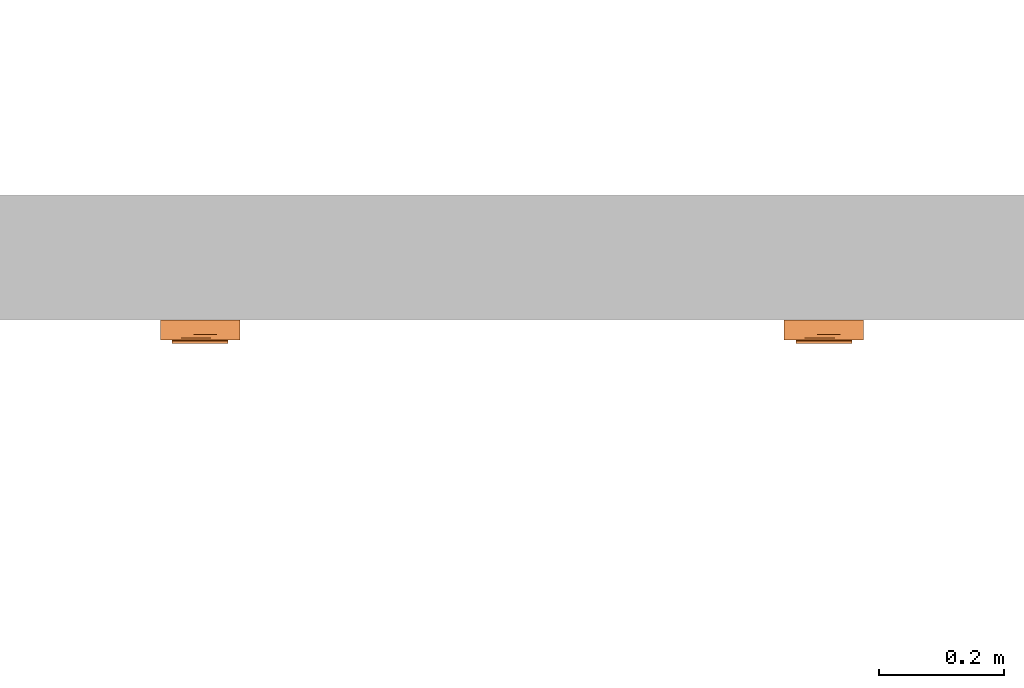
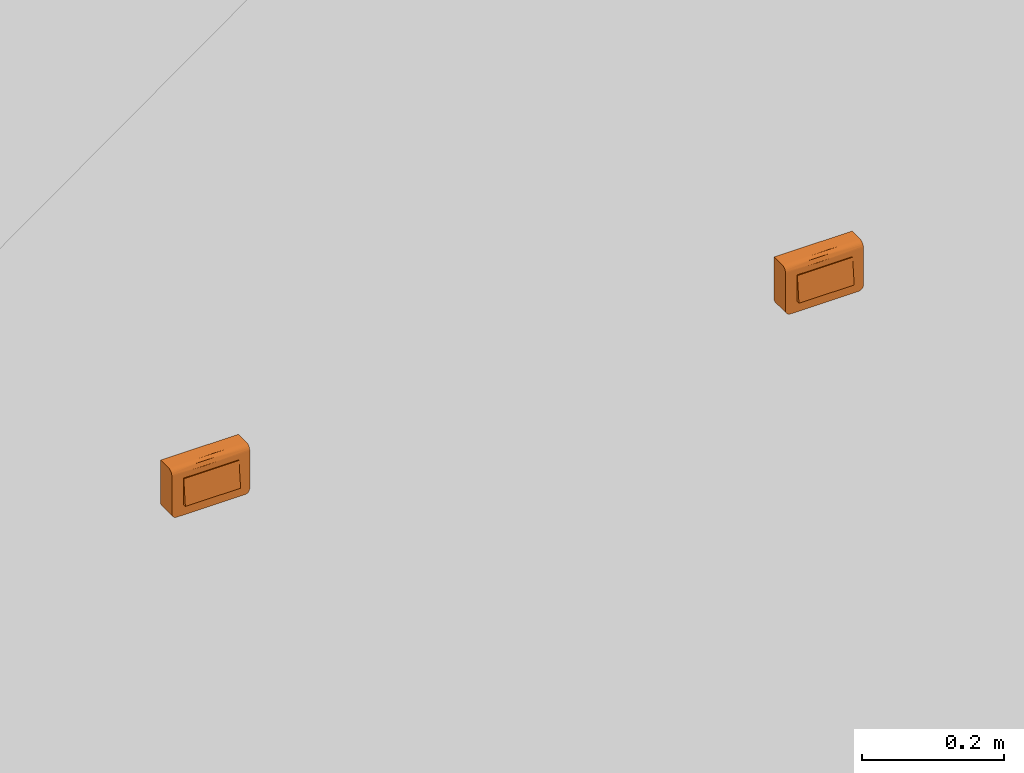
# One storey, part 140 of 197: 2 proxies.
"""IFC2X3 building model written with IfcOpenShell, lengths in metres."""

from ifc_helpers import new_model, entity, si_unit, converted_unit, direction, frame, origin, place, context, subcontext, project, spatial, faceted_brep, source, transform, mapped, material, material_list, type_object, type_shapes, element, save


model = new_model("IFC2X3")

# Units and contexts
model_context = context("Model", 3, precision=1e-05, world=origin(), true_north=direction((6.123031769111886e-17, 1.0)))
body_context = subcontext(model_context, "Body", "Model", "MODEL_VIEW")
ifc_project = project(units=[si_unit("LENGTHUNIT", "METRE"), converted_unit("PLANEANGLEUNIT", "DEGREE", entity("IfcPlaneAngleMeasure", 0.017453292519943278), si_unit("PLANEANGLEUNIT", "RADIAN"), dimensions=[0, 0, 0, 0, 0, 0, 0]), si_unit("AREAUNIT", "SQUARE_METRE")], contexts=[model_context])

# Site, building, storey
site_placement = place(None, origin())
site = spatial("IfcSite", under=ifc_project, at=site_placement, Name="Default", CompositionType="ELEMENT")
building_placement = place(site_placement, origin())
building = spatial("IfcBuilding", under=site, at=building_placement, CompositionType="ELEMENT")
storey_placement = place(building_placement, origin())
storey = spatial("IfcBuildingStorey", under=building, at=storey_placement, Name="Niveau 0", CompositionType="ELEMENT", Elevation=0.0)

# Proxies
ifc_material_1 = material(Name="BETCE-DOIGT-BLANC")
ifc_material_2 = material(Name="BETCE-CADRE-BLANC")
ifc_material_3 = material(Name="BETCE-ENJOLIVEUR-BLANC")
ifc_material_list = material_list([ifc_material_1, ifc_material_2, ifc_material_3])
building_element_proxy_type_1 = type_object("IfcBuildingElementProxyType", Name="Tableau commande 1x4 modules saillie:2 SA + 2 BP", PredefinedType="NOTDEFINED", material=ifc_material_list)
shared_shape_1 = source(origin(), body_context, "Body", "Brep", [
    faceted_brep([(-0.04499999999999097, -0.03350000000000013, 0.022499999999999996), (-0.04499999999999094, -0.038000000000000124, -0.022500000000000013), (-0.022500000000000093, -0.03799999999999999, -0.02249999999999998), (-0.02250000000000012, -0.0335, 0.022499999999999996), (-0.04499999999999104, -0.02299999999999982, -0.022500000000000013), (-0.04499999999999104, -0.02299999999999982, 0.022499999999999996), (-0.022500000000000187, -0.022999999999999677, 0.022499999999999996), (-0.022500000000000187, -0.022999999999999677, -0.022500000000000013)], [[[0, 1, 2, 3]], [[4, 5, 6, 7]], [[5, 4, 1, 0]], [[6, 5, 0, 3]], [[7, 6, 3, 2]], [[4, 7, 2, 1]]]),
    faceted_brep([(0.02250000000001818, -0.03349999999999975, 0.022499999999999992), (0.02250000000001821, -0.03799999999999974, -0.022500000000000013), (0.04500000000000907, -0.03799999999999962, -0.02250000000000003), (0.04500000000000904, -0.03349999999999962, 0.022499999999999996), (0.022500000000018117, -0.02299999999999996, -0.022500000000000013), (0.022500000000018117, -0.02299999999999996, 0.022499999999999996), (0.04500000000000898, -0.022999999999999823, 0.022499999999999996), (0.04500000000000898, -0.022999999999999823, -0.022500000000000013)], [[[0, 1, 2, 3]], [[4, 5, 6, 7]], [[5, 4, 1, 0]], [[6, 5, 0, 3]], [[7, 6, 3, 2]], [[4, 7, 2, 1]]]),
    faceted_brep([(0.0, -0.03349999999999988, 0.022499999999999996), (0.0, -0.03799999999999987, -0.022500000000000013), (0.022499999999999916, -0.03799999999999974, -0.022500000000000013), (0.022499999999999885, -0.03349999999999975, 0.022499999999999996), (0.0, -0.02299999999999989, -0.022500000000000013), (0.0, -0.02299999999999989, 0.022499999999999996), (0.022499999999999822, -0.02299999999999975, 0.022499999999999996), (0.022499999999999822, -0.02299999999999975, -0.022500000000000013)], [[[0, 1, 2, 3]], [[4, 5, 6, 7]], [[5, 4, 1, 0]], [[6, 5, 0, 3]], [[7, 6, 3, 2]], [[4, 7, 2, 1]]]),
    faceted_brep([(0.05550000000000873, -0.02299999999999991, -0.041000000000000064), (0.05757055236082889, -0.0229999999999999, -0.04072740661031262), (0.05950000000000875, -0.022999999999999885, -0.03992820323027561), (0.06115685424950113, -0.022999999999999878, -0.03865685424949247), (0.06242820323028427, -0.022999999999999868, -0.03700000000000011), (0.06322740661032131, -0.022999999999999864, -0.03507055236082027), (0.063500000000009, -0.02299999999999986, -0.033000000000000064), (0.06350000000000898, -0.02299999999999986, 0.04092306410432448), (-0.06349999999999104, -0.023000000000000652, 0.04092306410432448), (-0.06349999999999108, -0.023000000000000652, -0.032999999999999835), (-0.06322740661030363, -0.023000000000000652, -0.03507055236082), (-0.06242820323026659, -0.02300000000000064, -0.03699999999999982), (-0.06115685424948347, -0.023000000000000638, -0.0386568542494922), (-0.05949999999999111, -0.023000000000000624, -0.03992820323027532), (-0.05757055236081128, -0.023000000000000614, -0.040727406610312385), (-0.05549999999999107, -0.0230000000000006, -0.040999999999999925), (-0.05549999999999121, 0.0, -0.04099999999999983), (-0.05757055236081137, 0.0, -0.040727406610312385), (-0.05949999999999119, 0.0, -0.03992820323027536), (-0.061156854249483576, 0.0, -0.03865685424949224), (-0.06242820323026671, 0.0, -0.03699999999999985), (-0.06322740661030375, 0.0, -0.03507055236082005), (-0.06349999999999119, 0.0, -0.032999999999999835), (-0.06349999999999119, 0.0, 0.04092306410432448), (0.06350000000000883, 0.0, 0.04092306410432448), (0.06350000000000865, 0.0, -0.033), (0.0632274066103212, 0.0, -0.03507055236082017), (0.062428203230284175, 0.0, -0.037000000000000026), (0.06115685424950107, 0.0, -0.0386568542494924), (0.059500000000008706, 0.0, -0.039928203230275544), (0.05757055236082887, 0.0, -0.040727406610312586), (0.055500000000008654, 0.0, -0.040999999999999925)], [[[0, 1, 2, 3, 4, 5, 6, 7, 8, 9, 10, 11, 12, 13, 14, 15]], [[16, 17, 18, 19, 20, 21, 22, 23, 24, 25, 26, 27, 28, 29, 30, 31]], [[9, 8, 23, 22]], [[0, 15, 16, 31]], [[7, 6, 25, 24]], [[8, 7, 24, 23]], [[25, 6, 5, 26]], [[26, 5, 4, 27]], [[27, 4, 3, 28]], [[29, 2, 1, 30]], [[30, 1, 0, 31]], [[28, 3, 2, 29]], [[17, 16, 15, 14]], [[18, 17, 14, 13]], [[19, 18, 13, 12]], [[20, 19, 12, 11]], [[21, 20, 11, 10]], [[22, 21, 10, 9]]]),
    faceted_brep([(-0.022500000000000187, -0.02299999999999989, -0.022500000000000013), (-0.022500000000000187, -0.02299999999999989, 0.022499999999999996), (0.0, -0.02299999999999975, 0.022499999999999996), (0.0, -0.02299999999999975, -0.022500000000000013), (-0.022500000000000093, -0.03799999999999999, -0.0225), (-0.02250000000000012, -0.0335, 0.022499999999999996), (0.0, -0.03349999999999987, 0.022499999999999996), (0.0, -0.037999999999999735, -0.022500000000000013)], [[[0, 1, 2, 3]], [[1, 0, 4, 5]], [[2, 1, 5, 6]], [[3, 2, 6, 7]], [[0, 3, 7, 4]], [[5, 4, 7, 6]]]),
    faceted_brep([(0.06350000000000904, -0.031999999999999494, -0.03299999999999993), (0.06350000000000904, -0.031999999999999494, 0.0319999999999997), (0.04500000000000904, -0.031999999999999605, -0.022500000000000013), (0.05550000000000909, -0.03199999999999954, -0.040999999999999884), (0.05757055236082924, -0.03199999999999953, -0.040727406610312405), (0.05950000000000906, -0.03199999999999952, -0.039928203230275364), (0.06115685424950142, -0.03199999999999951, -0.038656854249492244), (0.06322740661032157, -0.031999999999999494, -0.03507055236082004), (0.04500000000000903, -0.031999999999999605, 0.022499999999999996), (-0.04499999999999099, -0.03200000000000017, 0.022499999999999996), (-0.011124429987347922, -0.032000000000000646, 0.031999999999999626), (-0.06349999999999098, -0.032000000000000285, 0.0319999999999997), (-0.04499999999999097, -0.03200000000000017, -0.022500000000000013), (-0.06349999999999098, -0.032000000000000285, -0.032999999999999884), (-0.05549999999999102, -0.03200000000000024, -0.040999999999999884), (-0.057570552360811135, -0.032000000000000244, -0.04072740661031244), (-0.05949999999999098, -0.03200000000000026, -0.0399282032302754), (-0.061156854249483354, -0.032000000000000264, -0.03865685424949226), (-0.06322740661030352, -0.03200000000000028, -0.03507055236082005), (-0.06242820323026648, -0.03200000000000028, -0.03699999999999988), (0.06242820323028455, -0.0319999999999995, -0.03699999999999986), (-0.06349999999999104, -0.023000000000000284, -0.032999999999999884), (-0.06349999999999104, -0.023000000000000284, 0.041000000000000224), (-0.04499999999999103, -0.023000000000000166, 0.022499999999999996), (-0.04499999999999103, -0.023000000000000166, -0.022500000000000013), (-0.05549999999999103, -0.023000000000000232, -0.040999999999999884), (-0.0575705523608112, -0.023000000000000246, -0.04072740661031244), (-0.059499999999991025, -0.023000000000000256, -0.0399282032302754), (-0.06322740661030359, -0.02300000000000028, -0.03507055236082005), (0.04500000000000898, -0.022999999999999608, 0.022499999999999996), (0.011124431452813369, -0.02299999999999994, 0.041000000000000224), (0.06350000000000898, -0.022999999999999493, 0.041000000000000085), (0.06350000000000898, -0.022999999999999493, -0.032999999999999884), (0.04500000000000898, -0.022999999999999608, -0.022500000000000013), (0.055500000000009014, -0.02299999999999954, -0.040999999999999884), (0.05757055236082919, -0.02299999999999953, -0.040727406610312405), (0.059500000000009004, -0.022999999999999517, -0.039928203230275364), (0.06322740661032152, -0.022999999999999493, -0.03507055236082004), (0.061156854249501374, -0.022999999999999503, -0.038656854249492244), (0.06242820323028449, -0.022999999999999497, -0.03699999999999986), (-0.0611568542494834, -0.023000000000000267, -0.03865685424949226), (-0.062428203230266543, -0.023000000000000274, -0.03699999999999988), (0.063500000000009, -0.02532937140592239, 0.04069333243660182), (0.06350000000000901, -0.027499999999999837, 0.039794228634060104), (0.06350000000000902, -0.029363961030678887, 0.03836396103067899), (0.06350000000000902, -0.030794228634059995, 0.03649999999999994), (0.06350000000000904, -0.03169333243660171, 0.03432937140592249), (-0.06349999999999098, -0.03169333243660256, 0.034329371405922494), (-0.063499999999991, -0.030794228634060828, 0.03649999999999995), (-0.063499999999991, -0.029363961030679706, 0.03836396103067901), (-0.06349999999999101, -0.027500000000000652, 0.039794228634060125), (-0.06349999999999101, -0.025329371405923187, 0.04069333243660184), (-0.010857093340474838, -0.02912089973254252, 0.03859807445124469)], [[[0, 1, 2]], [[3, 0, 2]], [[0, 3, 4]], [[0, 4, 5]], [[5, 6, 0]], [[7, 0, 6]], [[2, 1, 8]], [[1, 9, 8]], [[9, 1, 10]], [[9, 10, 11]], [[12, 9, 11]], [[13, 12, 11]], [[14, 12, 13]], [[14, 13, 15]], [[16, 15, 13]], [[13, 17, 16]], [[17, 13, 18]], [[17, 18, 19]], [[12, 14, 3]], [[2, 12, 3]], [[20, 7, 6]], [[21, 22, 23]], [[24, 21, 23]], [[25, 21, 24]], [[21, 25, 26]], [[21, 26, 27]], [[28, 21, 27]], [[22, 29, 23]], [[29, 22, 30]], [[29, 30, 31]], [[32, 29, 31]], [[33, 29, 32]], [[34, 33, 32]], [[34, 32, 35]], [[36, 35, 32]], [[36, 32, 37]], [[37, 38, 36]], [[38, 37, 39]], [[33, 34, 25]], [[24, 33, 25]], [[27, 40, 28]], [[41, 28, 40]], [[1, 0, 32, 31, 42, 43, 44, 45, 46]], [[37, 32, 0, 7]], [[39, 37, 7, 20]], [[38, 39, 20, 6]], [[36, 38, 6, 5]], [[35, 36, 5, 4]], [[34, 35, 4, 3]], [[25, 34, 3, 14]], [[26, 25, 14, 15]], [[27, 26, 15, 16]], [[40, 27, 16, 17]], [[41, 40, 17, 19]], [[28, 41, 19, 18]], [[21, 28, 18, 13]], [[22, 21, 13, 11, 47, 48, 49, 50, 51]], [[52, 10, 45]], [[47, 11, 10]], [[1, 46, 10]], [[44, 52, 45]], [[46, 45, 10]], [[50, 52, 51]], [[48, 47, 10]], [[30, 52, 43]], [[48, 52, 49]], [[42, 31, 30]], [[30, 22, 51]], [[48, 10, 52]], [[30, 43, 42]], [[44, 43, 52]], [[52, 50, 49]], [[52, 30, 51]], [[24, 23, 9, 12]], [[33, 24, 12, 2]], [[29, 33, 2, 8]], [[23, 29, 8, 9]]]),
])
type_shapes(building_element_proxy_type_1, [shared_shape_1])
proxy_1_placement = place(storey_placement, frame((-374.450779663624, 116.01635778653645, 1.1)))
element("IfcBuildingElementProxy", 1, at=proxy_1_placement, inside=storey, type_object=building_element_proxy_type_1, material=ifc_material_list, Name="Tableau commande 1x4 modules saillie:2 SA + 2 BP", ObjectType="Tableau commande 1x4 modules saillie:2 SA + 2 BP", context=body_context, shape_type="MappedRepresentation", body=[
    mapped(shared_shape_1, transform((0.0, 0.0, 0.0), scale=1.0)),
])
building_element_proxy_type_2 = type_object("IfcBuildingElementProxyType", Name="Tableau commande 1x4 modules saillie:2 VV + 2 BP", PredefinedType="NOTDEFINED", material=ifc_material_list)
shared_shape_2 = source(origin(), body_context, "Body", "Brep", [
    faceted_brep([(-0.04499999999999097, -0.03350000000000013, 0.022499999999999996), (-0.04499999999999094, -0.038000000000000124, -0.022500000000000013), (-0.022500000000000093, -0.03799999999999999, -0.02249999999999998), (-0.02250000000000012, -0.0335, 0.022499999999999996), (-0.04499999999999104, -0.02299999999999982, -0.022500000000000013), (-0.04499999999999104, -0.02299999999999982, 0.022499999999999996), (-0.022500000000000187, -0.022999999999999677, 0.022499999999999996), (-0.022500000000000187, -0.022999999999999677, -0.022500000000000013)], [[[0, 1, 2, 3]], [[4, 5, 6, 7]], [[5, 4, 1, 0]], [[6, 5, 0, 3]], [[7, 6, 3, 2]], [[4, 7, 2, 1]]]),
    faceted_brep([(0.02250000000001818, -0.03349999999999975, 0.022499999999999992), (0.02250000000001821, -0.03799999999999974, -0.022500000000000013), (0.04500000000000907, -0.03799999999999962, -0.02250000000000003), (0.04500000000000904, -0.03349999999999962, 0.022499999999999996), (0.022500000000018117, -0.02299999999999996, -0.022500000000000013), (0.022500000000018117, -0.02299999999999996, 0.022499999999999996), (0.04500000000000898, -0.022999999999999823, 0.022499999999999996), (0.04500000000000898, -0.022999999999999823, -0.022500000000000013)], [[[0, 1, 2, 3]], [[4, 5, 6, 7]], [[5, 4, 1, 0]], [[6, 5, 0, 3]], [[7, 6, 3, 2]], [[4, 7, 2, 1]]]),
    faceted_brep([(0.0, -0.03349999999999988, 0.022499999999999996), (0.0, -0.03799999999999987, -0.022500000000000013), (0.022499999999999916, -0.03799999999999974, -0.022500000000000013), (0.022499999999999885, -0.03349999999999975, 0.022499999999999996), (0.0, -0.02299999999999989, -0.022500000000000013), (0.0, -0.02299999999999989, 0.022499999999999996), (0.022499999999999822, -0.02299999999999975, 0.022499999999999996), (0.022499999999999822, -0.02299999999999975, -0.022500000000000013)], [[[0, 1, 2, 3]], [[4, 5, 6, 7]], [[5, 4, 1, 0]], [[6, 5, 0, 3]], [[7, 6, 3, 2]], [[4, 7, 2, 1]]]),
    faceted_brep([(0.05550000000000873, -0.02299999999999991, -0.041000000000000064), (0.05757055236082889, -0.0229999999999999, -0.04072740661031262), (0.05950000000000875, -0.022999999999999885, -0.03992820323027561), (0.06115685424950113, -0.022999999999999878, -0.03865685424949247), (0.06242820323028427, -0.022999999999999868, -0.03700000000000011), (0.06322740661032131, -0.022999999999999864, -0.03507055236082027), (0.063500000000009, -0.02299999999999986, -0.033000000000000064), (0.06350000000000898, -0.02299999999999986, 0.04092306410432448), (-0.06349999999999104, -0.023000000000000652, 0.04092306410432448), (-0.06349999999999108, -0.023000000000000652, -0.032999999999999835), (-0.06322740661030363, -0.023000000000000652, -0.03507055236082), (-0.06242820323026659, -0.02300000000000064, -0.03699999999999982), (-0.06115685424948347, -0.023000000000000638, -0.0386568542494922), (-0.05949999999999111, -0.023000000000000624, -0.03992820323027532), (-0.05757055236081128, -0.023000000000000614, -0.040727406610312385), (-0.05549999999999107, -0.0230000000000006, -0.040999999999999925), (-0.05549999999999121, 0.0, -0.04099999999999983), (-0.05757055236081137, 0.0, -0.040727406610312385), (-0.05949999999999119, 0.0, -0.03992820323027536), (-0.061156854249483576, 0.0, -0.03865685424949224), (-0.06242820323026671, 0.0, -0.03699999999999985), (-0.06322740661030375, 0.0, -0.03507055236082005), (-0.06349999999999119, 0.0, -0.032999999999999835), (-0.06349999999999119, 0.0, 0.04092306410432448), (0.06350000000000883, 0.0, 0.04092306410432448), (0.06350000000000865, 0.0, -0.033), (0.0632274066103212, 0.0, -0.03507055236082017), (0.062428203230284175, 0.0, -0.037000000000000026), (0.06115685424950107, 0.0, -0.0386568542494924), (0.059500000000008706, 0.0, -0.039928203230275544), (0.05757055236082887, 0.0, -0.040727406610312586), (0.055500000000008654, 0.0, -0.040999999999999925)], [[[0, 1, 2, 3, 4, 5, 6, 7, 8, 9, 10, 11, 12, 13, 14, 15]], [[16, 17, 18, 19, 20, 21, 22, 23, 24, 25, 26, 27, 28, 29, 30, 31]], [[9, 8, 23, 22]], [[0, 15, 16, 31]], [[7, 6, 25, 24]], [[8, 7, 24, 23]], [[25, 6, 5, 26]], [[26, 5, 4, 27]], [[27, 4, 3, 28]], [[29, 2, 1, 30]], [[30, 1, 0, 31]], [[28, 3, 2, 29]], [[17, 16, 15, 14]], [[18, 17, 14, 13]], [[19, 18, 13, 12]], [[20, 19, 12, 11]], [[21, 20, 11, 10]], [[22, 21, 10, 9]]]),
    faceted_brep([(-0.022500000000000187, -0.02299999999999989, -0.022500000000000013), (-0.022500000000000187, -0.02299999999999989, 0.022499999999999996), (0.0, -0.02299999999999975, 0.022499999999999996), (0.0, -0.02299999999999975, -0.022500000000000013), (-0.022500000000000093, -0.03799999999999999, -0.0225), (-0.02250000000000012, -0.0335, 0.022499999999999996), (0.0, -0.03349999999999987, 0.022499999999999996), (0.0, -0.037999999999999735, -0.022500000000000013)], [[[0, 1, 2, 3]], [[1, 0, 4, 5]], [[2, 1, 5, 6]], [[3, 2, 6, 7]], [[0, 3, 7, 4]], [[5, 4, 7, 6]]]),
    faceted_brep([(0.06350000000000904, -0.031999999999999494, -0.03299999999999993), (0.06350000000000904, -0.031999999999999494, 0.0319999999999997), (0.04500000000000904, -0.031999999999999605, -0.022500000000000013), (0.05550000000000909, -0.03199999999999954, -0.040999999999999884), (0.05757055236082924, -0.03199999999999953, -0.040727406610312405), (0.05950000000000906, -0.03199999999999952, -0.039928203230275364), (0.06115685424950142, -0.03199999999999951, -0.038656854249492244), (0.06322740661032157, -0.031999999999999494, -0.03507055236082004), (0.04500000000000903, -0.031999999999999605, 0.022499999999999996), (-0.04499999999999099, -0.03200000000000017, 0.022499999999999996), (-0.011124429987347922, -0.032000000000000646, 0.031999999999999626), (-0.06349999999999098, -0.032000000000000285, 0.0319999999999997), (-0.04499999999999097, -0.03200000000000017, -0.022500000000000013), (-0.06349999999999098, -0.032000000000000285, -0.032999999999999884), (-0.05549999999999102, -0.03200000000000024, -0.040999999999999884), (-0.057570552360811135, -0.032000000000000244, -0.04072740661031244), (-0.05949999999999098, -0.03200000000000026, -0.0399282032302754), (-0.061156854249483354, -0.032000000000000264, -0.03865685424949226), (-0.06322740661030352, -0.03200000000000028, -0.03507055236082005), (-0.06242820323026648, -0.03200000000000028, -0.03699999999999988), (0.06242820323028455, -0.0319999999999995, -0.03699999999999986), (-0.06349999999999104, -0.023000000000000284, -0.032999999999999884), (-0.06349999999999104, -0.023000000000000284, 0.041000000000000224), (-0.04499999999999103, -0.023000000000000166, 0.022499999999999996), (-0.04499999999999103, -0.023000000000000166, -0.022500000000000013), (-0.05549999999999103, -0.023000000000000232, -0.040999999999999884), (-0.0575705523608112, -0.023000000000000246, -0.04072740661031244), (-0.059499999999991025, -0.023000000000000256, -0.0399282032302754), (-0.06322740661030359, -0.02300000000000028, -0.03507055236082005), (0.04500000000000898, -0.022999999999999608, 0.022499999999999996), (0.011124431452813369, -0.02299999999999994, 0.041000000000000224), (0.06350000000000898, -0.022999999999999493, 0.041000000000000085), (0.06350000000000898, -0.022999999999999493, -0.032999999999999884), (0.04500000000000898, -0.022999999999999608, -0.022500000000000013), (0.055500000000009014, -0.02299999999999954, -0.040999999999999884), (0.05757055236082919, -0.02299999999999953, -0.040727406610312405), (0.059500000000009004, -0.022999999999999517, -0.039928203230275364), (0.06322740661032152, -0.022999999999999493, -0.03507055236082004), (0.061156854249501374, -0.022999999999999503, -0.038656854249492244), (0.06242820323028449, -0.022999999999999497, -0.03699999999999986), (-0.0611568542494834, -0.023000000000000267, -0.03865685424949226), (-0.062428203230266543, -0.023000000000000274, -0.03699999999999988), (0.063500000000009, -0.02532937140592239, 0.04069333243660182), (0.06350000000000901, -0.027499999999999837, 0.039794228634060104), (0.06350000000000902, -0.029363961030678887, 0.03836396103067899), (0.06350000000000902, -0.030794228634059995, 0.03649999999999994), (0.06350000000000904, -0.03169333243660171, 0.03432937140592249), (-0.06349999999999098, -0.03169333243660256, 0.034329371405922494), (-0.063499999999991, -0.030794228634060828, 0.03649999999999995), (-0.063499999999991, -0.029363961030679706, 0.03836396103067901), (-0.06349999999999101, -0.027500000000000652, 0.039794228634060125), (-0.06349999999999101, -0.025329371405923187, 0.04069333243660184), (-0.010857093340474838, -0.02912089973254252, 0.03859807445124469)], [[[0, 1, 2]], [[3, 0, 2]], [[0, 3, 4]], [[0, 4, 5]], [[5, 6, 0]], [[7, 0, 6]], [[2, 1, 8]], [[1, 9, 8]], [[9, 1, 10]], [[9, 10, 11]], [[12, 9, 11]], [[13, 12, 11]], [[14, 12, 13]], [[14, 13, 15]], [[16, 15, 13]], [[13, 17, 16]], [[17, 13, 18]], [[17, 18, 19]], [[12, 14, 3]], [[2, 12, 3]], [[20, 7, 6]], [[21, 22, 23]], [[24, 21, 23]], [[25, 21, 24]], [[21, 25, 26]], [[21, 26, 27]], [[28, 21, 27]], [[22, 29, 23]], [[29, 22, 30]], [[29, 30, 31]], [[32, 29, 31]], [[33, 29, 32]], [[34, 33, 32]], [[34, 32, 35]], [[36, 35, 32]], [[36, 32, 37]], [[37, 38, 36]], [[38, 37, 39]], [[33, 34, 25]], [[24, 33, 25]], [[27, 40, 28]], [[41, 28, 40]], [[1, 0, 32, 31, 42, 43, 44, 45, 46]], [[37, 32, 0, 7]], [[39, 37, 7, 20]], [[38, 39, 20, 6]], [[36, 38, 6, 5]], [[35, 36, 5, 4]], [[34, 35, 4, 3]], [[25, 34, 3, 14]], [[26, 25, 14, 15]], [[27, 26, 15, 16]], [[40, 27, 16, 17]], [[41, 40, 17, 19]], [[28, 41, 19, 18]], [[21, 28, 18, 13]], [[22, 21, 13, 11, 47, 48, 49, 50, 51]], [[52, 10, 45]], [[47, 11, 10]], [[1, 46, 10]], [[44, 52, 45]], [[46, 45, 10]], [[50, 52, 51]], [[48, 47, 10]], [[30, 52, 43]], [[48, 52, 49]], [[42, 31, 30]], [[30, 22, 51]], [[48, 10, 52]], [[30, 43, 42]], [[44, 43, 52]], [[52, 50, 49]], [[52, 30, 51]], [[24, 23, 9, 12]], [[33, 24, 12, 2]], [[29, 33, 2, 8]], [[23, 29, 8, 9]]]),
])
type_shapes(building_element_proxy_type_2, [shared_shape_2])
proxy_2_placement = place(storey_placement, frame((-373.450779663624, 116.01635778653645, 1.1)))
element("IfcBuildingElementProxy", 2, at=proxy_2_placement, inside=storey, type_object=building_element_proxy_type_2, material=ifc_material_list, Name="Tableau commande 1x4 modules saillie:2 VV + 2 BP", ObjectType="Tableau commande 1x4 modules saillie:2 VV + 2 BP", context=body_context, shape_type="MappedRepresentation", body=[
    mapped(shared_shape_2, transform((0.0, 0.0, 0.0), scale=1.0)),
])

save(model, "model.ifc")
